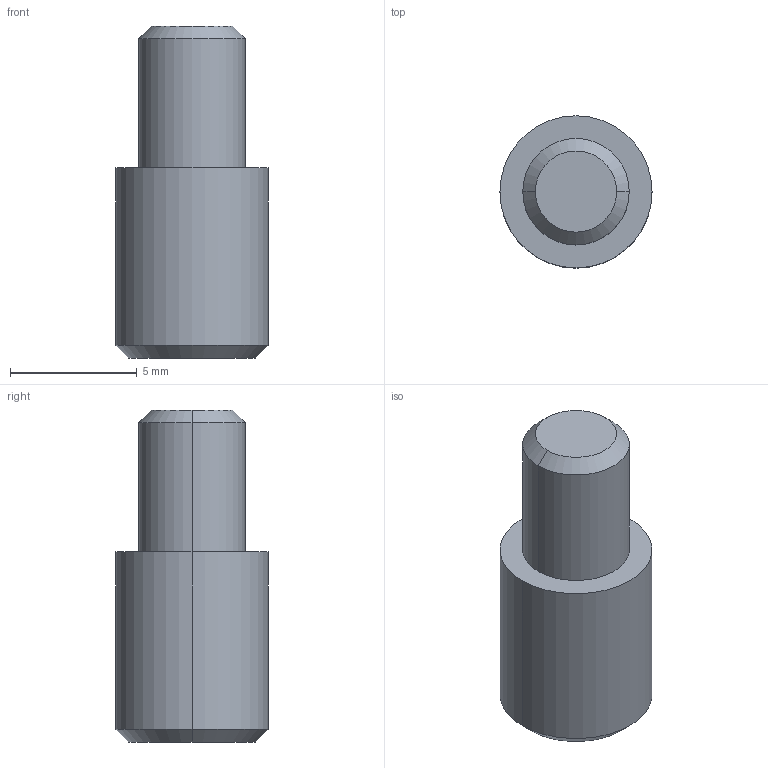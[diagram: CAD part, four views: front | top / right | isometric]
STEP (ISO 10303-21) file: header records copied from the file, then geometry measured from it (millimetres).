
FILE_DESCRIPTION (( 'STEP AP214' ), '1' );
FILE_NAME ('TAEM6E8.STEP', '2022-01-18T10:36:55', ( '' ), ( '' ), 'SwSTEP 2.0', 'SolidWorks 2019', '' );
FILE_SCHEMA (( 'AUTOMOTIVE_DESIGN' ));
Length unit declared in the file: millimetre
Products named in the file (1): TAEM6E8
Bounding box: 6 x 6 x 13.1 mm (x, y, z)
Volume: 285.9 mm3; surface area: 261.8 mm2
Topology: 1 solids, 1 shells, 11 faces, 20 edges, 12 vertices
Faces by surface type: cone 4, cylinder 4, plane 3
Entity records: 352 total; most frequent: DIRECTION 56, CARTESIAN_POINT 44, ORIENTED_EDGE 40, AXIS2_PLACEMENT_3D 24, EDGE_CURVE 20, VERTEX_POINT 12, EDGE_LOOP 12, CIRCLE 12
